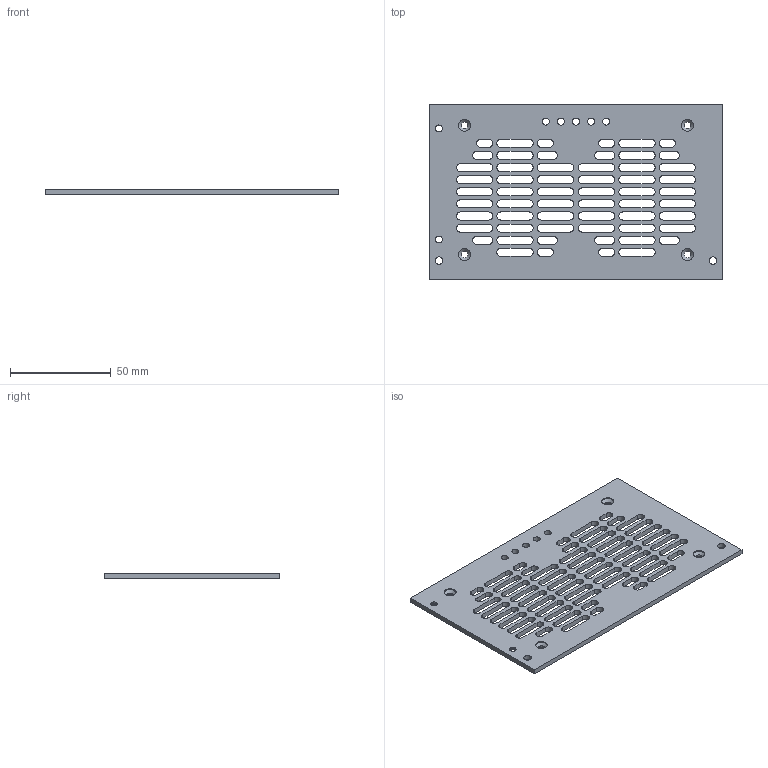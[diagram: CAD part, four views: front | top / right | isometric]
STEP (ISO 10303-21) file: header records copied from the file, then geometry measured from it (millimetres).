
FILE_DESCRIPTION(/* description */ ('FRONT PLATE 2U','CAx-IF Rec.Pracs.---Representation and Presentation of Product Manufacturing Information (PMI)---4.0---2014-10-13'),/* implementation_level */ '2;1');
FILE_NAME(/* name */ 'E:\CAMTEC_2020_Pack and Go\Subrack_2U\2021056002.stp',/* time_stamp */ '2020-09-21T14:54:27+02:00',/* author */ ('rryba'),/* organization */ (''),/* preprocessor_version */ 'ST-DEVELOPER v18.1',/* originating_system */ 'Autodesk Inventor 2021',/* authorisation */ '');
FILE_SCHEMA (('AP242_MANAGED_MODEL_BASED_3D_ENGINEERING_MIM_LF { 1 0 10303 442 1 1 4 }'));
Length unit declared in the file: millimetre
Products named in the file (1): 2021056002
Bounding box: 145.6 x 87 x 2.5 mm (x, y, z)
Volume: 22535.6 mm3; surface area: 24893.5 mm2
Topology: 1 solids, 1 shells, 263 faces, 1060 edges, 1061 vertices
Faces by surface type: cylinder 135, plane 122, cone 6
Full cylindrical faces by diameter (mm): 3.4 x6, 3.5 x5, 3.8 x2, 5.9 x6
Entity records: 11234 total; most frequent: CARTESIAN_POINT 2216, DIRECTION 1855, ORIENTED_EDGE 1550, EDGE_CURVE 775, AXIS2_PLACEMENT_3D 677, VERTEX_POINT 514, LINE 501, VECTOR 501
